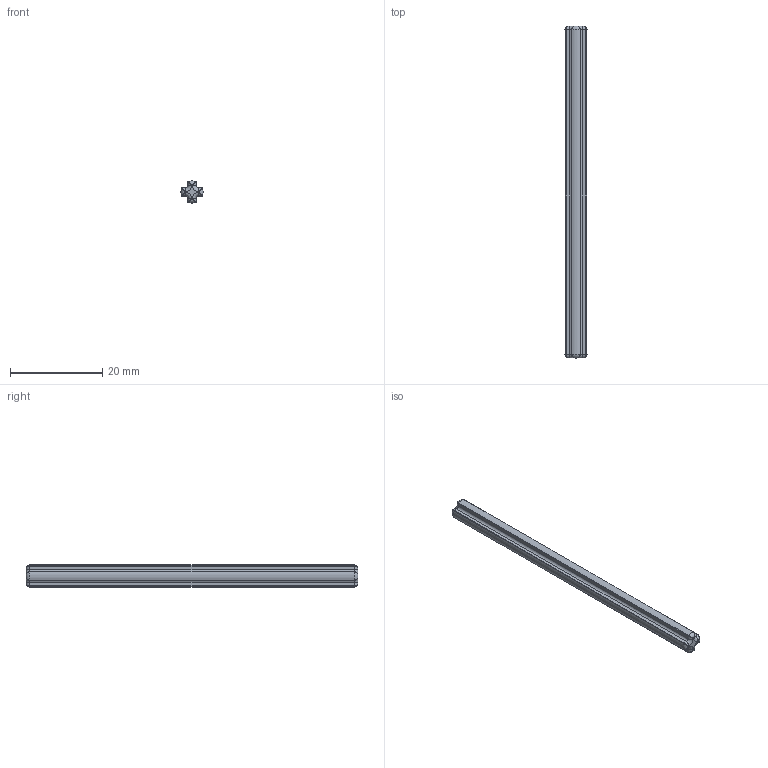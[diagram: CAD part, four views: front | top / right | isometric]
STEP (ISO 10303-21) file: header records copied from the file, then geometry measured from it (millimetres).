
FILE_DESCRIPTION(/* description */ ('Unknown'),/* implementation_level */ '2;1');
FILE_NAME(/* name */ 'ClGray_4535768_JCA',/* time_stamp */ '2025-07-21T23:56:03+02:00',/* author */ ('Unknown'),/* organization */ ('Unknown'),/* preprocessor_version */ 'ST-DEVELOPER v19.4',/* originating_system */ 'Solid Edge',/* authorisation */ 'Unknown');
FILE_SCHEMA (('AUTOMOTIVE_DESIGN {1 0 10303 214 3 1 1}'));
Length unit declared in the file: millimetre
Products named in the file (1): ClGray_4535768_JCA
Bounding box: 4.79 x 72 x 4.79 mm (x, y, z)
Volume: 991.6 mm3; surface area: 1238.2 mm2
Topology: 1 solids, 1 shells, 74 faces, 168 edges, 80 vertices
Faces by surface type: cylinder 32, torus 16, bspline 16, plane 10
Entity records: 2142 total; most frequent: CARTESIAN_POINT 659, ORIENTED_EDGE 304, DIRECTION 302, EDGE_CURVE 152, AXIS2_PLACEMENT_3D 123, VERTEX_POINT 80, EDGE_LOOP 74, FACE_BOUND 74
